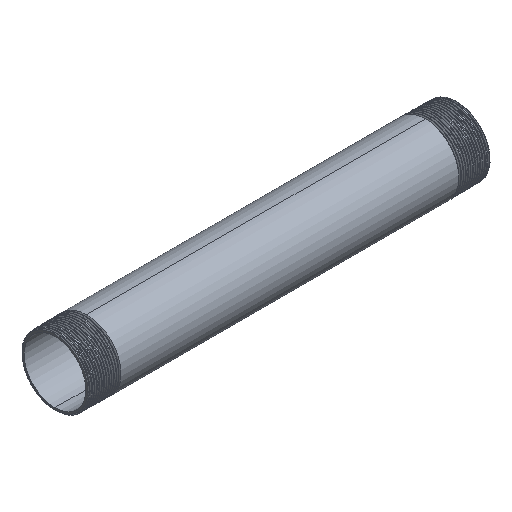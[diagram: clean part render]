
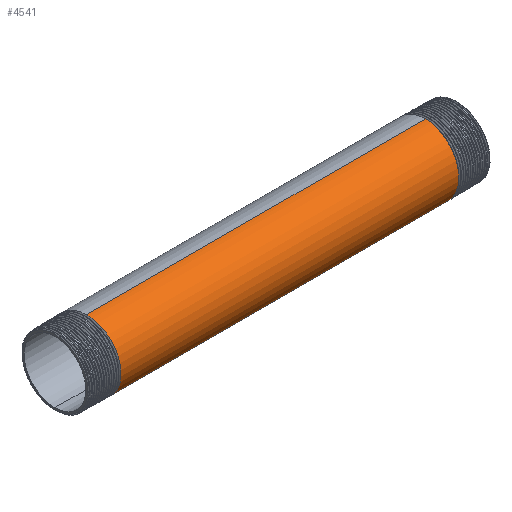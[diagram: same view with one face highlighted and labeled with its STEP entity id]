
A CAD part, isometric view. The second image highlights one B-rep face of the part: STEP entity #4541.
In plain terms, the highlighted cylindrical face has radius 21.2 mm (diameter 42.4 mm), a partial arc.
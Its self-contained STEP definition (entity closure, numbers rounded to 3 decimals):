
#352 = CARTESIAN_POINT ( 'NONE',  ( 105.156, -21.2, 8.781 ) ) ;
#459 = VERTEX_POINT ( 'NONE', #2686 ) ;
#480 = CARTESIAN_POINT ( 'NONE',  ( 104.688, 0., -21.2 ) ) ;
#790 = CARTESIAN_POINT ( 'NONE',  ( -149.494, 0., 21.2 ) ) ;
#847 = LINE ( 'NONE', #790, #4282 ) ;
#1764 = DIRECTION ( 'NONE',  ( -1., 0., 0. ) ) ;
#1978 = CARTESIAN_POINT ( 'NONE',  ( -104.781, -8.781, -21.2 ) ) ;
#2122 =( BOUNDED_CURVE ( )  B_SPLINE_CURVE ( 2, ( #480, #5931, #5813, #5995, #9496, #352, #5028, #9676, #6058 ),
 .UNSPECIFIED., .F., .T. ) 
 B_SPLINE_CURVE_WITH_KNOTS ( ( 3, 2, 2, 2, 3 ),
 ( 0., 0.008, 0.016, 0.023, 0.031 ),
 .UNSPECIFIED. ) 
 CURVE ( )  GEOMETRIC_REPRESENTATION_ITEM ( )  RATIONAL_B_SPLINE_CURVE ( ( 1., 0.924, 1., 0.924, 1., 0.924, 1., 0.924, 1. ) ) 
 REPRESENTATION_ITEM ( '' )  );
#2686 = CARTESIAN_POINT ( 'NONE',  ( 104.688, 0., -21.2 ) ) ;
#2877 = EDGE_CURVE ( 'NONE', #459, #4079, #3462, .T. ) ;
#3014 = CARTESIAN_POINT ( 'NONE',  ( -104.969, -21.2, -8.781 ) ) ;
#3206 = ORIENTED_EDGE ( 'NONE', *, *, #6912, .T. ) ;
#3462 = LINE ( 'NONE', #11723, #11939 ) ;
#3860 = CARTESIAN_POINT ( 'NONE',  ( -105.063, -21.2, 0. ) ) ;
#4079 = VERTEX_POINT ( 'NONE', #6604 ) ;
#4282 = VECTOR ( 'NONE', #1764, 1000. ) ;
#4441 = ORIENTED_EDGE ( 'NONE', *, *, #8533, .F. ) ;
#4471 = CARTESIAN_POINT ( 'NONE',  ( -105.438, 0., 21.2 ) ) ;
#4541 = ADVANCED_FACE ( 'NONE', ( #8313 ), #9210, .T. ) ;
#4823 = CARTESIAN_POINT ( 'NONE',  ( -105.156, -21.2, 8.781 ) ) ;
#4882 = CARTESIAN_POINT ( 'NONE',  ( -105.25, -14.991, 14.991 ) ) ;
#5028 = CARTESIAN_POINT ( 'NONE',  ( 105.25, -14.991, 14.991 ) ) ;
#5350 = DIRECTION ( 'NONE',  ( -1., 0., 0. ) ) ;
#5666 = CARTESIAN_POINT ( 'NONE',  ( 105.438, 0., 21.2 ) ) ;
#5813 = CARTESIAN_POINT ( 'NONE',  ( 104.875, -14.991, -14.991 ) ) ;
#5931 = CARTESIAN_POINT ( 'NONE',  ( 104.781, -8.781, -21.2 ) ) ;
#5995 = CARTESIAN_POINT ( 'NONE',  ( 104.969, -21.2, -8.781 ) ) ;
#6058 = CARTESIAN_POINT ( 'NONE',  ( 105.438, 0., 21.2 ) ) ;
#6495 = ORIENTED_EDGE ( 'NONE', *, *, #2877, .F. ) ;
#6497 = EDGE_LOOP ( 'NONE', ( #6495, #3206, #8741, #4441 ) ) ;
#6573 = CARTESIAN_POINT ( 'NONE',  ( -104.688, 0., -21.2 ) ) ;
#6604 = CARTESIAN_POINT ( 'NONE',  ( -104.688, 0., -21.2 ) ) ;
#6912 = EDGE_CURVE ( 'NONE', #459, #8489, #2122, .T. ) ;
#7536 = CARTESIAN_POINT ( 'NONE',  ( -105.344, -8.781, 21.2 ) ) ;
#7712 = AXIS2_PLACEMENT_3D ( 'NONE', #8194, #5350, #9152 ) ;
#8194 = CARTESIAN_POINT ( 'NONE',  ( -149.494, 0., 0. ) ) ;
#8313 = FACE_OUTER_BOUND ( 'NONE', #6497, .T. ) ;
#8489 = VERTEX_POINT ( 'NONE', #5666 ) ;
#8533 = EDGE_CURVE ( 'NONE', #4079, #10431, #10014, .T. ) ;
#8741 = ORIENTED_EDGE ( 'NONE', *, *, #11776, .T. ) ;
#9152 = DIRECTION ( 'NONE',  ( 0., 0., 1. ) ) ;
#9210 = CYLINDRICAL_SURFACE ( 'NONE', #7712, 21.2 ) ;
#9345 = CARTESIAN_POINT ( 'NONE',  ( -104.875, -14.991, -14.991 ) ) ;
#9496 = CARTESIAN_POINT ( 'NONE',  ( 105.063, -21.2, 0. ) ) ;
#9676 = CARTESIAN_POINT ( 'NONE',  ( 105.344, -8.781, 21.2 ) ) ;
#10014 =( BOUNDED_CURVE ( )  B_SPLINE_CURVE ( 2, ( #6573, #1978, #9345, #3014, #3860, #4823, #4882, #7536, #10310 ),
 .UNSPECIFIED., .F., .T. ) 
 B_SPLINE_CURVE_WITH_KNOTS ( ( 3, 2, 2, 2, 3 ),
 ( 0., 0.008, 0.016, 0.023, 0.031 ),
 .UNSPECIFIED. ) 
 CURVE ( )  GEOMETRIC_REPRESENTATION_ITEM ( )  RATIONAL_B_SPLINE_CURVE ( ( 1., 0.924, 1., 0.924, 1., 0.924, 1., 0.924, 1. ) ) 
 REPRESENTATION_ITEM ( '' )  );
#10310 = CARTESIAN_POINT ( 'NONE',  ( -105.438, 0., 21.2 ) ) ;
#10431 = VERTEX_POINT ( 'NONE', #4471 ) ;
#11723 = CARTESIAN_POINT ( 'NONE',  ( -149.494, 0., -21.2 ) ) ;
#11776 = EDGE_CURVE ( 'NONE', #8489, #10431, #847, .T. ) ;
#11939 = VECTOR ( 'NONE', #11956, 1000. ) ;
#11956 = DIRECTION ( 'NONE',  ( -1., 0., 0. ) ) ;
